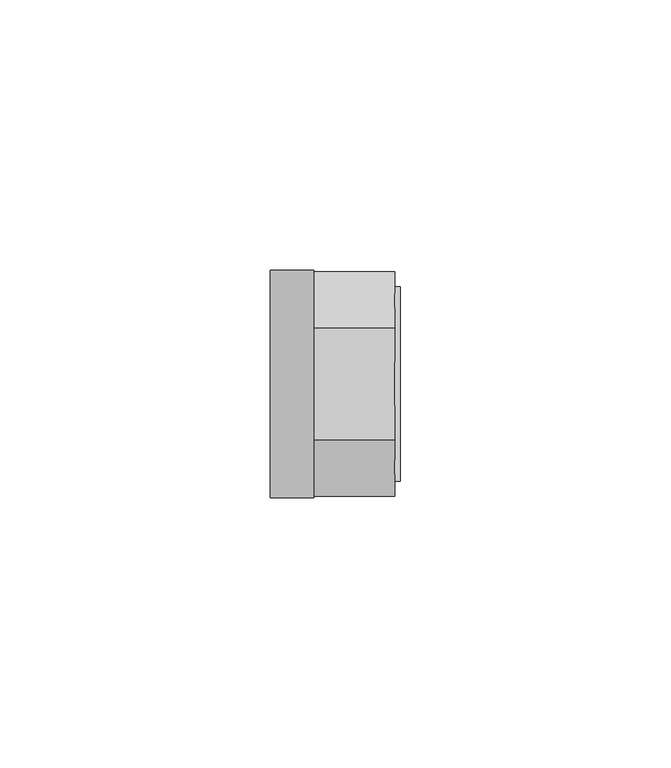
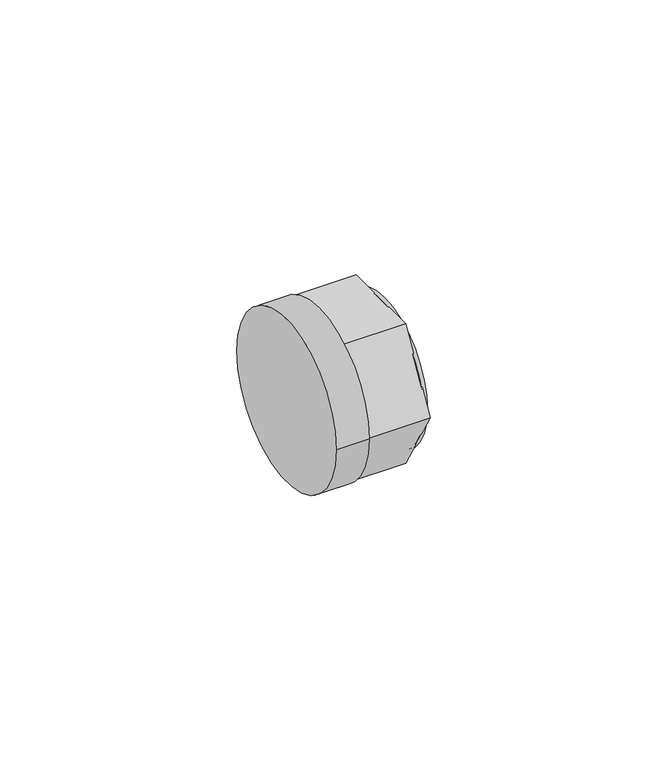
"""IFC4 building model written with IfcOpenShell, lengths in millimetres: pipe fitting geometry, 01011012 : Tampão F."""

import ifcopenshell
import ifcopenshell.guid

model = None  # the IFC model being written
_history = None  # IfcOwnerHistory: only IFC2X3 demands one
_inside = {}  # id of a spatial element -> (the spatial element, [elements in it])
_under = {}  # id of a project, library or spatial element -> (it, [spatial elements below it])
_declared = {}  # id of a project -> (the project, [libraries it declares])
_typed = {}  # id of a type object -> (the type object, [elements of that type])
_made_of = {}  # id of a material, layer set ... -> (it, [elements and type objects made of it])


def new_model(schema):
    """Start an empty IFC model of exactly this schema.

    Asked for "IFC4X3", IfcOpenShell would pick the latest addendum, in which some entities
    have other attributes; the version numbers below select the first issue.
    IFC2X3 requires an IfcOwnerHistory on every rooted entity: one is made here for all.
    """
    global model, _history
    if schema == "IFC4X3":
        model = ifcopenshell.file(schema_version=(4, 3, 0, 0))
    else:
        model = ifcopenshell.file(schema=schema)
    _inside.clear()
    _under.clear()
    _declared.clear()
    _typed.clear()
    _made_of.clear()
    _history = None
    if model.schema == "IFC2X3":
        org = make("IfcOrganization", Name="unknown")
        user = make(
            "IfcPersonAndOrganization",
            ThePerson=make("IfcPerson", FamilyName="unknown"),
            TheOrganization=org,
        )
        app = make(
            "IfcApplication",
            ApplicationDeveloper=org,
            Version="unknown",
            ApplicationFullName="unknown",
            ApplicationIdentifier="unknown",
        )
        _history = make(
            "IfcOwnerHistory",
            OwningUser=user,
            OwningApplication=app,
            ChangeAction="ADDED",
            CreationDate=0,
        )
    return model


def make(cls, **values):
    """One entity of the class cls with the attributes given. An attribute that is None is left unset."""
    return model.create_entity(
        cls, **{name: value for name, value in values.items() if value is not None}
    )


def rooted(cls, **values):
    """An entity with a GlobalId (a new one), such as an element, a storey or a relation."""
    return make(cls, GlobalId=ifcopenshell.guid.new(), OwnerHistory=_history, **values)


def si_unit(unit_type, name, prefix=None):
    """IfcSIUnit, for example si_unit("LENGTHUNIT", "METRE", prefix="MILLI")."""
    return make("IfcSIUnit", UnitType=unit_type, Prefix=prefix, Name=name)


def assignment(units):
    """IfcUnitAssignment: the units of a project."""
    return None if units is None else make("IfcUnitAssignment", Units=units)


def point(xyz):
    """IfcCartesianPoint."""
    return None if xyz is None else make("IfcCartesianPoint", Coordinates=xyz)


def direction(xyz):
    """IfcDirection."""
    return None if xyz is None else make("IfcDirection", DirectionRatios=xyz)


def frame(location, z_axis=None, x_axis=None):
    """IfcAxis2Placement3D, a coordinate frame: its origin and axes. An axis left out is left unset."""
    return make(
        "IfcAxis2Placement3D",
        Location=point(location),
        Axis=direction(z_axis),
        RefDirection=direction(x_axis),
    )


def frame_2d(location, x_axis=None):
    """IfcAxis2Placement2D, a coordinate frame in the plane: its origin and x axis."""
    return make(
        "IfcAxis2Placement2D", Location=point(location), RefDirection=direction(x_axis)
    )


def origin():
    """The frame at (0, 0, 0) with its axes left unset."""
    return frame((0.0, 0.0, 0.0))


def origin_2d():
    """The frame at (0, 0) in the plane with its x axis left unset."""
    return frame_2d((0.0, 0.0))


def place(relative_to, where):
    """IfcLocalPlacement: puts the frame where relative to a parent placement (None: the world)."""
    return make(
        "IfcLocalPlacement", PlacementRelTo=relative_to, RelativePlacement=where
    )


def context(
    kind, dimensions, precision=None, world=None, true_north=None, identifier=None
):
    """IfcGeometricRepresentationContext, for example the 3D "Model" context."""
    return make(
        "IfcGeometricRepresentationContext",
        ContextIdentifier=identifier,
        ContextType=kind,
        CoordinateSpaceDimension=dimensions,
        Precision=precision,
        WorldCoordinateSystem=world,
        TrueNorth=true_north,
    )


def project(units=None, contexts=None):
    """IfcProject with its units and contexts."""
    return rooted(
        "IfcProject",
        Name="project",
        RepresentationContexts=contexts,
        UnitsInContext=assignment(units),
    )


def spatial(cls, under=None, at=None, **own):
    """A site, building, storey or space (cls), placed at a placement, below another one or the project."""
    s = rooted(cls, ObjectPlacement=at, **own)
    if under is not None:
        _under.setdefault(under.id(), (under, []))[1].append(s)
    return s


def polyline(points):
    """IfcPolyline through the points."""
    return make("IfcPolyline", Points=[point(p) for p in points])


def circle_curve(where, radius):
    """IfcCircle in the frame where."""
    return make("IfcCircle", Position=where, Radius=radius)


def trimmed(basis, trim1, trim2, sense, master):
    """IfcTrimmedCurve: the piece of a basis curve between two trims."""
    return make(
        "IfcTrimmedCurve",
        BasisCurve=basis,
        Trim1=trim1,
        Trim2=trim2,
        SenseAgreement=sense,
        MasterRepresentation=master,
    )


def segment(curve, same_sense, transition):
    """IfcCompositeCurveSegment."""
    return make(
        "IfcCompositeCurveSegment",
        Transition=transition,
        SameSense=same_sense,
        ParentCurve=curve,
    )


def composite_curve(segments, self_intersect=None):
    """IfcCompositeCurve: segments joined end to end."""
    return make("IfcCompositeCurve", Segments=segments, SelfIntersect=self_intersect)


def outline(outer, holes=None, kind="AREA"):
    """IfcArbitraryClosedProfileDef: a profile drawn as a closed curve; with holes, ...WithVoids."""
    if holes is None:
        return make("IfcArbitraryClosedProfileDef", ProfileType=kind, OuterCurve=outer)
    return make(
        "IfcArbitraryProfileDefWithVoids",
        ProfileType=kind,
        OuterCurve=outer,
        InnerCurves=holes,
    )


def extrude(swept, where, along, depth):
    """IfcExtrudedAreaSolid: the profile swept, set in the frame where, extruded along a direction by depth."""
    return make(
        "IfcExtrudedAreaSolid",
        SweptArea=swept,
        Position=where,
        ExtrudedDirection=direction(along),
        Depth=depth,
    )


def shape(context_of_items, identifier, shape_type, items):
    """IfcShapeRepresentation: the items that make up one representation, for example the "Body"."""
    return make(
        "IfcShapeRepresentation",
        ContextOfItems=context_of_items,
        RepresentationIdentifier=identifier,
        RepresentationType=shape_type,
        Items=items,
    )


def source(mapping_origin, context_of_items, identifier, shape_type, items):
    """IfcRepresentationMap: a shape defined once, which mapped items show again and again."""
    return make(
        "IfcRepresentationMap",
        MappingOrigin=mapping_origin,
        MappedRepresentation=shape(context_of_items, identifier, shape_type, items),
    )


def transform(
    local_origin,
    x_axis=None,
    y_axis=None,
    z_axis=None,
    scale=None,
    scale2=None,
    scale3=None,
    uniform=True,
):
    """IfcCartesianTransformationOperator3D, or its non-uniform kind. x_axis, y_axis, z_axis: its Axis1, 2, 3."""
    if uniform:
        return make(
            "IfcCartesianTransformationOperator3D",
            Axis1=direction(x_axis),
            Axis2=direction(y_axis),
            LocalOrigin=point(local_origin),
            Scale=scale,
            Axis3=direction(z_axis),
        )
    return make(
        "IfcCartesianTransformationOperator3DnonUniform",
        Axis1=direction(x_axis),
        Axis2=direction(y_axis),
        LocalOrigin=point(local_origin),
        Scale=scale,
        Axis3=direction(z_axis),
        Scale2=scale2,
        Scale3=scale3,
    )


def mapped(mapping_source, mapping_target):
    """IfcMappedItem: shows the shape of a source again, moved by a transform."""
    return make(
        "IfcMappedItem", MappingSource=mapping_source, MappingTarget=mapping_target
    )


def made_of(thing, what):
    """Note that an element or type object is made of a material, layer set ...; save() writes the relation."""
    if what is not None:
        _made_of.setdefault(what.id(), (what, []))[1].append(thing)
    return thing


def element(
    cls,
    number,
    at=None,
    inside=None,
    cuts=None,
    type_object=None,
    material=None,
    context=None,
    identifier="Body",
    shape_type=None,
    held_by="IfcProductDefinitionShape",
    body=None,
    shapes=None,
    **own,
):
    """One element of the class cls, such as IfcWall. Its Tag is "e" and its number.

    at: its placement. inside: the storey or other place that contains it. cuts: it is an
    opening in that element (IfcRelVoidsElement). A single representation is given by context,
    identifier, shape_type and body (its items); several are given by shapes. held_by: the class
    of the entity that holds the representations. save() writes the other relations.
    """
    e = rooted(cls, Tag="e%d" % number, ObjectPlacement=at, **own)
    if body is not None:
        shapes = [shape(context, identifier, shape_type, body)]
    if shapes is not None:
        e.Representation = make(held_by, Representations=shapes)
    if inside is not None:
        _inside.setdefault(inside.id(), (inside, []))[1].append(e)
    if cuts is not None:
        rooted(
            "IfcRelVoidsElement", RelatingBuildingElement=cuts, RelatedOpeningElement=e
        )
    if type_object is not None:
        _typed.setdefault(type_object.id(), (type_object, []))[1].append(e)
    return made_of(e, material)


def aggregate(whole, parts):
    """IfcRelAggregates: a whole, such as a stair, and the parts it consists of."""
    return rooted("IfcRelAggregates", RelatingObject=whole, RelatedObjects=parts)


def save(model, path):
    """Write the relations noted so far, then the file.

    IfcRelAggregates (storeys below a building ...), IfcRelContainedInSpatialStructure (elements
    in a storey), IfcRelDefinesByType, IfcRelAssociatesMaterial and IfcRelDeclares: one each for
    every whole, place, type object, material and project.
    """
    for whole, parts in _under.values():
        aggregate(whole, parts)
    for where, things in _inside.values():
        rooted(
            "IfcRelContainedInSpatialStructure",
            RelatedElements=things,
            RelatingStructure=where,
        )
    for kind, things in _typed.values():
        rooted("IfcRelDefinesByType", RelatedObjects=things, RelatingType=kind)
    for what, things in _made_of.values():
        rooted("IfcRelAssociatesMaterial", RelatedObjects=things, RelatingMaterial=what)
    for by, libraries in _declared.values():
        rooted("IfcRelDeclares", RelatingContext=by, RelatedDefinitions=libraries)
    model.write(path)


def pipe_fitting_dc1b8ab5(model_context):
    return source(origin(), model_context, "Body", "SweptSolid", [
        extrude(outline(composite_curve([segment(trimmed(circle_curve(origin_2d(), 18.0), [point((-18.0, 0.0))], [point((18.0, 0.0))], False, "CARTESIAN"), True, "CONTINUOUS"), segment(trimmed(circle_curve(origin_2d(), 18.0), [point((18.0, 0.0))], [point((-18.0, 0.0))], False, "CARTESIAN"), True, "CONTINUOUS")], self_intersect=False)), frame((23.0, 0.0, 0.0), z_axis=(1.0, 0.0, 0.0), x_axis=(0.0, 1.0, 0.0)), (0.0, 0.0, 1.0), 1.0),
        extrude(outline(composite_curve([segment(trimmed(circle_curve(origin_2d(), 21.0), [point((-21.0, 0.0))], [point((21.0, 0.0))], False, "CARTESIAN"), True, "CONTINUOUS"), segment(trimmed(circle_curve(origin_2d(), 21.0), [point((21.0, 0.0))], [point((-21.0, 0.0))], False, "CARTESIAN"), True, "CONTINUOUS")], self_intersect=False)), frame((0.0, 0.0, 0.0), z_axis=(1.0, 0.0, 0.0), x_axis=(0.0, 1.0, 0.0)), (0.0, 0.0, 1.0), 8.0),
        extrude(outline(polyline([(-10.3923048, 18.0), (10.3923048, 18.0), (20.7846097, 0.0), (10.3923048, -18.0), (-10.3923048, -18.0), (-20.7846097, 0.0), (-10.3923048, 18.0)])), frame((8.0, 0.0, 0.0), z_axis=(1.0, 0.0, 0.0), x_axis=(0.0, 1.0, 0.0)), (0.0, 0.0, 1.0), 15.0),
    ])


if __name__ == "__main__":
    model = new_model("IFC4")
    model_context = context("Model", 3, world=origin())
    ifc_project = project(units=[si_unit("LENGTHUNIT", "METRE", prefix="MILLI")], contexts=[model_context])
    site = spatial("IfcSite", under=ifc_project)
    building = spatial("IfcBuilding", under=site)
    placement = place(None, origin())
    pipe_fitting_shape = pipe_fitting_dc1b8ab5(model_context)
    element("IfcPipeFitting", 1, ObjectType="01011012 : Tampão F", at=placement, inside=building, context=model_context, shape_type="MappedRepresentation", body=[
        mapped(pipe_fitting_shape, transform((0.0, 0.0, 0.0), x_axis=(1.0, 0.0, 0.0), y_axis=(0.0, 1.0, 0.0), z_axis=(0.0, 0.0, 1.0))),
    ])
    save(model, "model.ifc")
